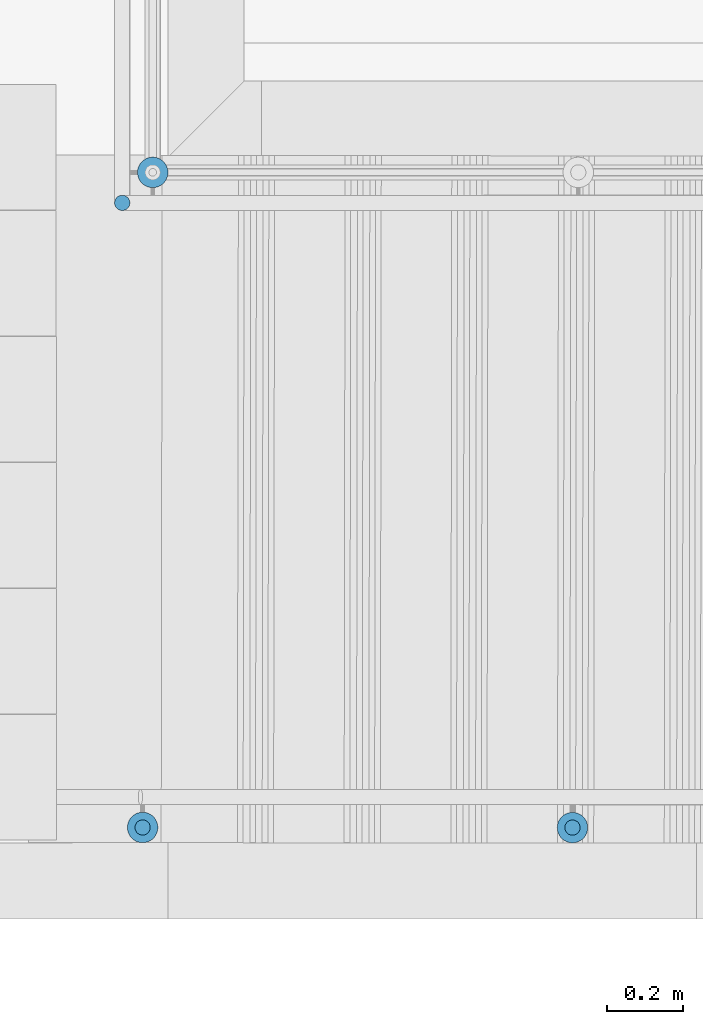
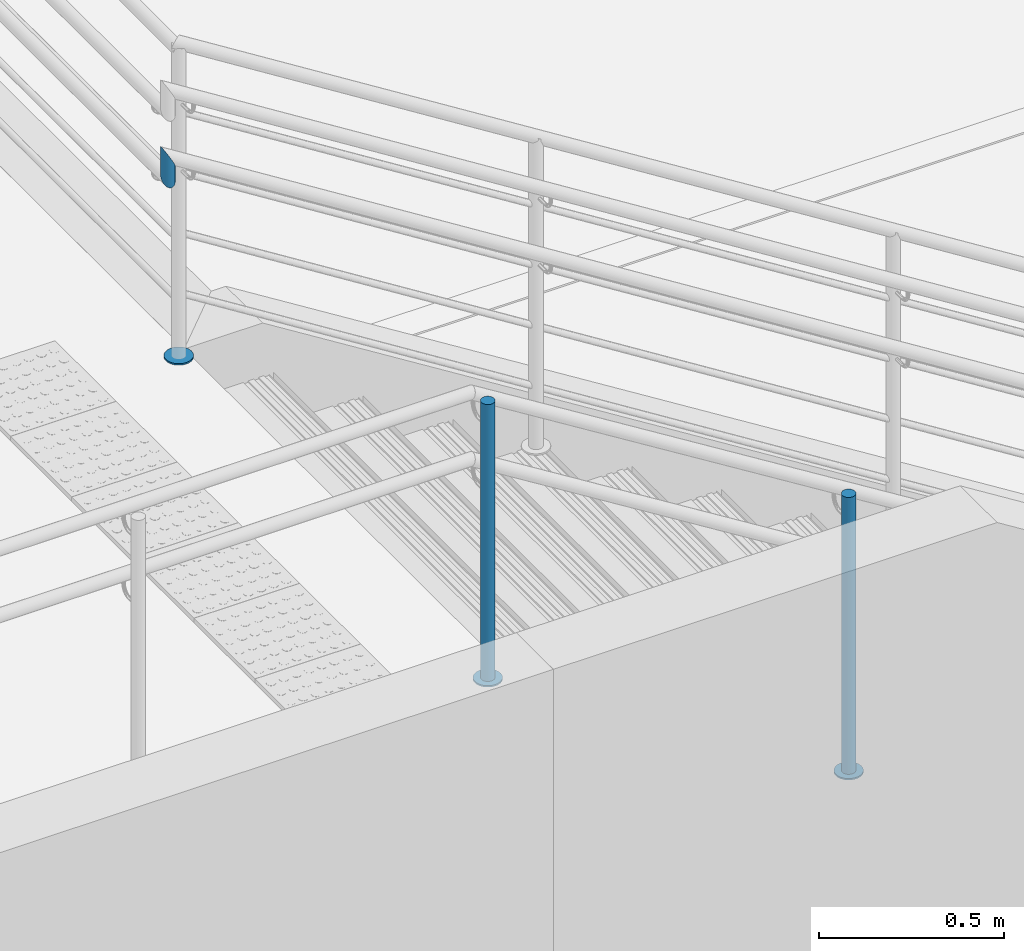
# One storey, part 131 of 237: 6 building element parts, 2 elements without a shape of their own.
"""IFC2X3 building model written with IfcOpenShell, lengths in millimetres."""

from ifc_helpers import new_model, entity, si_unit, converted_unit, derived_unit, money_unit, direction, frame, origin_with_axes, place, context, subcontext, project, spatial, faceted_brep, material, type_object, element, aggregate, save


model = new_model("IFC2X3")

# Units and contexts
model_context = context("Model", 3, precision=0.01, world=origin_with_axes(), true_north=direction((0.0, 1.0)))
body_context = subcontext(model_context, "Body", "Model", "MODEL_VIEW")
ifc_project = project(units=[si_unit("LENGTHUNIT", "METRE", prefix="MILLI"), si_unit("AREAUNIT", "SQUARE_METRE"), si_unit("VOLUMEUNIT", "CUBIC_METRE"), converted_unit("PLANEANGLEUNIT", "DEGREE", entity("IfcPlaneAngleMeasure", 0.0174532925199), si_unit("PLANEANGLEUNIT", "RADIAN"), dimensions=[0, 0, 0, 0, 0, 0, 0]), money_unit("USD"), converted_unit("TIMEUNIT", "Year", entity("IfcTimeMeasure", 31556926.0), si_unit("TIMEUNIT", "SECOND"), dimensions=[0, 0, 1, 0, 0, 0, 0]), si_unit("MASSUNIT", "GRAM", prefix="KILO"), si_unit("THERMODYNAMICTEMPERATUREUNIT", "DEGREE_CELSIUS"), si_unit("LUMINOUSINTENSITYUNIT", "LUMEN"), si_unit("ENERGYUNIT", "JOULE", prefix="MEGA"), derived_unit("THERMALCONDUCTANCEUNIT", [(si_unit("POWERUNIT", "WATT"), 1), (si_unit("LENGTHUNIT", "METRE"), -1), (si_unit("THERMODYNAMICTEMPERATUREUNIT", "KELVIN"), -1)]), derived_unit("SPECIFICHEATCAPACITYUNIT", [(si_unit("ENERGYUNIT", "JOULE"), 1), (si_unit("MASSUNIT", "GRAM", prefix="KILO"), -1), (si_unit("THERMODYNAMICTEMPERATUREUNIT", "KELVIN"), -1)]), derived_unit("MASSDENSITYUNIT", [(si_unit("MASSUNIT", "GRAM", prefix="KILO"), 1), (si_unit("VOLUMEUNIT", "CUBIC_METRE"), -1)])], contexts=[model_context])

# Site, building, storey
site_placement = place(None, origin_with_axes())
site = spatial("IfcSite", under=ifc_project, at=site_placement, Name="Local", CompositionType="ELEMENT")
building_placement = place(site_placement, origin_with_axes())
building = spatial("IfcBuilding", under=site, at=building_placement, Name="Construção", CompositionType="ELEMENT")
storey_placement = place(building_placement, origin_with_axes())
storey = spatial("IfcBuildingStorey", under=building, at=storey_placement, Name="Pavimento Térreo", CompositionType="ELEMENT", Elevation=0.0)

# Railing, building element parts
railing_type = type_object("IfcRailingType", Name="Tipo de Guarda-Corpo", PredefinedType="NOTDEFINED")
railing_1_placement = place(storey_placement, frame((88000.0, 12000.0, -7124.22292764), z_axis=(0.0, 0.0, 1.0), x_axis=(1.0, 0.0, 0.0)))
railing_1 = element("IfcRailing", 1, at=railing_1_placement, inside=storey, type_object=railing_type, Name="Guarda-Corpo - 003", PredefinedType="NOTDEFINED")
ifc_material_1 = material(Name="Aço - Inoxidável")
building_element_part_1_placement = place(railing_1_placement, origin_with_axes())
building_element_part_1 = element("IfcBuildingElementPart", 2, at=building_element_part_1_placement, material=ifc_material_1, Name="Aço - Inoxidável", context=body_context, shape_type="Brep", body=[
    faceted_brep([(12194.1213321, 1015.80094518, 2134.61869091), (12197.5943694, 1015.49794396, 2134.61869091), (12197.5943694, 1015.49794396, 3049.61869091), (12194.1213321, 1015.80094518, 3049.61869091), (12201.067259, 1015.80263261, 2134.61869091), (12190.7536737, 1016.70242971, 2134.61869091), (12187.5937187, 1018.17500642, 2134.61869091), (12184.7374808, 1020.1739318, 2134.61869091), (12182.2717454, 1022.63846952, 2134.61869091), (12180.2714324, 1025.49373585, 2134.61869091), (12178.7973205, 1028.65297495, 2134.61869091), (12177.8941998, 1032.02019496, 2134.61869091), (12177.5895112, 1035.4930846, 2134.61869091), (12177.8925124, 1038.96612186, 2134.61869091), (12178.793997, 1042.33378028, 2134.61869091), (12180.2665737, 1045.49373526, 2134.61869091), (12182.265499, 1048.34997315, 2134.61869091), (12184.7300368, 1050.81570862, 2134.61869091), (12187.5853031, 1052.81602155, 2134.61869091), (12190.7445422, 1054.29013343, 2134.61869091), (12194.1117622, 1055.19325413, 2134.61869091), (12197.5846518, 1055.49794278, 2134.61869091), (12201.0576891, 1055.19494157, 2134.61869091), (12204.4253475, 1054.29345703, 2134.61869091), (12207.5853025, 1052.82088032, 2134.61869091), (12210.4415404, 1050.82195494, 2134.61869091), (12212.9072759, 1048.35741722, 2134.61869091), (12214.9075888, 1045.5021509, 2134.61869091), (12216.3817007, 1042.34291179, 2134.61869091), (12217.2848214, 1038.97569178, 2134.61869091), (12217.58951, 1035.50280215, 2134.61869091), (12217.2865088, 1032.02976488, 2134.61869091), (12216.3850243, 1028.66210646, 2134.61869091), (12214.9124476, 1025.50215149, 2134.61869091), (12212.9135222, 1022.64591359, 2134.61869091), (12210.4489845, 1020.18017812, 2134.61869091), (12207.5937181, 1018.17986519, 2134.61869091), (12204.434479, 1016.70575331, 2134.61869091), (12201.067259, 1015.80263261, 3049.61869091), (12177.8925124, 1038.96612186, 3049.61869091), (12177.5895112, 1035.4930846, 3049.61869091), (12177.8941998, 1032.02019496, 3049.61869091), (12178.7973205, 1028.65297495, 3049.61869091), (12180.2714324, 1025.49373585, 3049.61869091), (12182.2717454, 1022.63846952, 3049.61869091), (12184.7374808, 1020.1739318, 3049.61869091), (12187.5937187, 1018.17500642, 3049.61869091), (12190.7536737, 1016.70242971, 3049.61869091), (12204.434479, 1016.70575331, 3049.61869091), (12207.5937181, 1018.17986519, 3049.61869091), (12210.4489845, 1020.18017812, 3049.61869091), (12212.9135222, 1022.64591359, 3049.61869091), (12214.9124476, 1025.50215149, 3049.61869091), (12216.3850243, 1028.66210646, 3049.61869091), (12217.2865088, 1032.02976488, 3049.61869091), (12217.58951, 1035.50280215, 3049.61869091), (12217.2848214, 1038.97569178, 3049.61869091), (12216.3817007, 1042.34291179, 3049.61869091), (12214.9075888, 1045.5021509, 3049.61869091), (12212.9072759, 1048.35741722, 3049.61869091), (12210.4415404, 1050.82195494, 3049.61869091), (12207.5853025, 1052.82088032, 3049.61869091), (12204.4253475, 1054.29345703, 3049.61869091), (12201.0576891, 1055.19494157, 3049.61869091), (12197.5846518, 1055.49794278, 3049.61869091), (12194.1117622, 1055.19325413, 3049.61869091), (12190.7445422, 1054.29013343, 3049.61869091), (12187.5853031, 1052.81602155, 3049.61869091), (12184.7300368, 1050.81570862, 3049.61869091), (12182.265499, 1048.34997315, 3049.61869091), (12180.2665737, 1045.49373526, 3049.61869091), (12178.793997, 1042.33378028, 3049.61869091)], [[[0, 1, 2, 3]], [[4, 1, 0, 5, 6, 7, 8, 9, 10, 11, 12, 13, 14, 15, 16, 17, 18, 19, 20, 21, 22, 23, 24, 25, 26, 27, 28, 29, 30, 31, 32, 33, 34, 35, 36, 37]], [[1, 4, 38, 2]], [[39, 40, 41, 42, 43, 44, 45, 46, 47, 3, 2, 38, 48, 49, 50, 51, 52, 53, 54, 55, 56, 57, 58, 59, 60, 61, 62, 63, 64, 65, 66, 67, 68, 69, 70, 71]], [[5, 0, 3, 47]], [[6, 5, 47, 46]], [[7, 6, 46, 45]], [[8, 7, 45, 44]], [[9, 8, 44, 43]], [[10, 9, 43, 42]], [[11, 10, 42, 41]], [[12, 11, 41, 40]], [[13, 12, 40, 39]], [[14, 13, 39, 71]], [[15, 14, 71, 70]], [[16, 15, 70, 69]], [[17, 16, 69, 68]], [[18, 17, 68, 67]], [[19, 18, 67, 66]], [[20, 19, 66, 65]], [[21, 20, 65, 64]], [[22, 21, 64, 63]], [[23, 22, 63, 62]], [[24, 23, 62, 61]], [[25, 24, 61, 60]], [[26, 25, 60, 59]], [[27, 26, 59, 58]], [[28, 27, 58, 57]], [[29, 28, 57, 56]], [[30, 29, 56, 55]], [[31, 30, 55, 54]], [[32, 31, 54, 53]], [[33, 32, 53, 52]], [[34, 33, 52, 51]], [[35, 34, 51, 50]], [[36, 35, 50, 49]], [[37, 36, 49, 48]], [[4, 37, 48, 38]]]),
])
ifc_material_2 = material(Name="Alumínio")
building_element_part_2_placement = place(railing_1_placement, origin_with_axes())
building_element_part_2 = element("IfcBuildingElementPart", 3, at=building_element_part_2_placement, material=ifc_material_2, Name="Alumínio", context=body_context, shape_type="Brep", body=[
    faceted_brep([(12237.5895094, 1035.50766092, 2129.61869091), (12236.9801321, 1042.45344019, 2129.61869091), (12236.9801321, 1042.45344019, 2134.61869091), (12237.5895094, 1035.50766092, 2134.61869091), (12236.983507, 1028.56158639, 2129.61869091), (12235.1805379, 1021.82626955, 2129.61869091), (12232.2353845, 1015.50635961, 2129.61869091), (12228.2375337, 1009.79388382, 2129.61869091), (12223.3084583, 1004.86241287, 2129.61869091), (12217.5979257, 1000.86178702, 2129.61869091), (12211.2794474, 997.913563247, 2129.61869091), (12204.5450074, 996.107321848, 2129.61869091), (12197.5992282, 995.497944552, 2129.61869091), (12190.6531536, 996.103946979, 2129.61869091), (12183.9178368, 997.906916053, 2129.61869091), (12177.5979268, 1000.85206947, 2129.61869091), (12171.8854511, 1004.84992023, 2129.61869091), (12166.9539801, 1009.77899567, 2129.61869091), (12162.9533543, 1015.48952832, 2129.61869091), (12160.0051305, 1021.80800653, 2129.61869091), (12158.1988891, 1028.54244655, 2129.61869091), (12157.5895118, 1035.48822582, 2129.61869091), (12158.1955142, 1042.43430036, 2129.61869091), (12159.9984833, 1049.16961719, 2129.61869091), (12162.9436367, 1055.48952714, 2129.61869091), (12166.9414875, 1061.20200293, 2129.61869091), (12171.8705629, 1066.13347387, 2129.61869091), (12177.5810956, 1070.13409973, 2129.61869091), (12183.8995738, 1073.0823235, 2129.61869091), (12190.6340138, 1074.8885649, 2129.61869091), (12197.5797931, 1075.49794219, 2129.61869091), (12204.5258676, 1074.89193976, 2129.61869091), (12211.2611844, 1073.08897069, 2129.61869091), (12217.5810944, 1070.14381727, 2129.61869091), (12223.2935702, 1066.14596651, 2129.61869091), (12228.2250411, 1061.21689107, 2129.61869091), (12232.225667, 1055.50635843, 2129.61869091), (12235.1738907, 1049.18788021, 2129.61869091), (12235.1738907, 1049.18788021, 2134.61869091), (12232.225667, 1055.50635843, 2134.61869091), (12228.2250411, 1061.21689107, 2134.61869091), (12223.2935702, 1066.14596651, 2134.61869091), (12217.5810944, 1070.14381727, 2134.61869091), (12211.2611844, 1073.08897069, 2134.61869091), (12204.5258676, 1074.89193976, 2134.61869091), (12197.5797931, 1075.49794219, 2134.61869091), (12190.6340138, 1074.8885649, 2134.61869091), (12183.8995738, 1073.0823235, 2134.61869091), (12177.5810956, 1070.13409973, 2134.61869091), (12171.8705629, 1066.13347387, 2134.61869091), (12166.9414875, 1061.20200293, 2134.61869091), (12162.9436367, 1055.48952714, 2134.61869091), (12159.9984833, 1049.16961719, 2134.61869091), (12158.1955142, 1042.43430036, 2134.61869091), (12157.5895118, 1035.48822582, 2134.61869091), (12158.1988891, 1028.54244655, 2134.61869091), (12160.0051305, 1021.80800653, 2134.61869091), (12162.9533543, 1015.48952832, 2134.61869091), (12166.9539801, 1009.77899567, 2134.61869091), (12171.8854511, 1004.84992023, 2134.61869091), (12177.5979268, 1000.85206947, 2134.61869091), (12183.9178368, 997.906916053, 2134.61869091), (12190.6531536, 996.103946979, 2134.61869091), (12197.5992282, 995.497944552, 2134.61869091), (12204.5450074, 996.107321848, 2134.61869091), (12211.2794474, 997.913563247, 2134.61869091), (12217.5979257, 1000.86178702, 2134.61869091), (12223.3084583, 1004.86241287, 2134.61869091), (12228.2375337, 1009.79388382, 2134.61869091), (12232.2353845, 1015.50635961, 2134.61869091), (12235.1805379, 1021.82626955, 2134.61869091), (12236.983507, 1028.56158639, 2134.61869091)], [[[0, 1, 2, 3]], [[0, 4, 5, 6, 7, 8, 9, 10, 11, 12, 13, 14, 15, 16, 17, 18, 19, 20, 21, 22, 23, 24, 25, 26, 27, 28, 29, 30, 31, 32, 33, 34, 35, 36, 37, 1]], [[1, 37, 38, 2]], [[3, 2, 38, 39, 40, 41, 42, 43, 44, 45, 46, 47, 48, 49, 50, 51, 52, 53, 54, 55, 56, 57, 58, 59, 60, 61, 62, 63, 64, 65, 66, 67, 68, 69, 70, 71]], [[4, 0, 3, 71]], [[5, 4, 71, 70]], [[6, 5, 70, 69]], [[7, 6, 69, 68]], [[8, 7, 68, 67]], [[9, 8, 67, 66]], [[10, 9, 66, 65]], [[11, 10, 65, 64]], [[12, 11, 64, 63]], [[13, 12, 63, 62]], [[14, 13, 62, 61]], [[15, 14, 61, 60]], [[16, 15, 60, 59]], [[17, 16, 59, 58]], [[18, 17, 58, 57]], [[19, 18, 57, 56]], [[20, 19, 56, 55]], [[21, 20, 55, 54]], [[22, 21, 54, 53]], [[23, 22, 53, 52]], [[24, 23, 52, 51]], [[25, 24, 51, 50]], [[26, 25, 50, 49]], [[27, 26, 49, 48]], [[28, 27, 48, 47]], [[29, 28, 47, 46]], [[30, 29, 46, 45]], [[31, 30, 45, 44]], [[32, 31, 44, 43]], [[33, 32, 43, 42]], [[34, 33, 42, 41]], [[35, 34, 41, 40]], [[36, 35, 40, 39]], [[37, 36, 39, 38]]]),
])
building_element_part_3_placement = place(railing_1_placement, origin_with_axes())
building_element_part_3 = element("IfcBuildingElementPart", 4, at=building_element_part_3_placement, material=ifc_material_1, Name="Aço - Inoxidável", context=body_context, shape_type="Brep", body=[
    faceted_brep([(13322.0238617, 1015.4772801, 1433.02847987), (13325.4967374, 1015.17243289, 1433.02847987), (13325.4967374, 1015.17243289, 2348.02847987), (13322.0238617, 1015.4772801, 2348.02847987), (13328.9697885, 1015.47527553, 1433.02847987), (13318.6566829, 1016.38055454, 1433.02847987), (13315.4975111, 1017.85481066, 1433.02847987), (13312.6423361, 1019.85525395, 1433.02847987), (13310.177911, 1022.32110195, 1433.02847987), (13308.179116, 1025.1774311, 1433.02847987), (13306.7066836, 1028.33745331, 1433.02847987), (13305.8053528, 1031.70515288, 1433.02847987), (13305.5025102, 1035.17820398, 1433.02847987), (13305.8073574, 1038.6510797, 1433.02847987), (13306.7106318, 1042.01825847, 1433.02847987), (13308.184888, 1045.17743027, 1433.02847987), (13310.1853312, 1048.03260526, 1433.02847987), (13312.6511792, 1050.4970304, 1433.02847987), (13315.5075084, 1052.49582537, 1433.02847987), (13318.6675306, 1053.9682578, 1433.02847987), (13322.0352302, 1054.86958858, 1433.02847987), (13325.5082813, 1055.17243122, 1433.02847987), (13328.981157, 1054.86758401, 1433.02847987), (13332.3483358, 1053.96430958, 1433.02847987), (13335.5075076, 1052.49005345, 1433.02847987), (13338.3626826, 1050.48961016, 1433.02847987), (13340.8271077, 1048.02376217, 1433.02847987), (13342.8259027, 1045.16743301, 1433.02847987), (13344.2983351, 1042.00741081, 1433.02847987), (13345.1996659, 1038.63971123, 1433.02847987), (13345.5025085, 1035.16666013, 1433.02847987), (13345.1976613, 1031.69378441, 1433.02847987), (13344.2943869, 1028.32660564, 1433.02847987), (13342.8201307, 1025.16743384, 1433.02847987), (13340.8196875, 1022.31225885, 1433.02847987), (13338.3538395, 1019.84783371, 1433.02847987), (13335.4975103, 1017.84903874, 1433.02847987), (13332.3374881, 1016.37660631, 1433.02847987), (13328.9697885, 1015.47527553, 2348.02847987), (13305.8073574, 1038.6510797, 2348.02847987), (13305.5025102, 1035.17820398, 2348.02847987), (13305.8053528, 1031.70515288, 2348.02847987), (13306.7066836, 1028.33745331, 2348.02847987), (13308.179116, 1025.1774311, 2348.02847987), (13310.177911, 1022.32110195, 2348.02847987), (13312.6423361, 1019.85525395, 2348.02847987), (13315.4975111, 1017.85481066, 2348.02847987), (13318.6566829, 1016.38055454, 2348.02847987), (13332.3374881, 1016.37660631, 2348.02847987), (13335.4975103, 1017.84903874, 2348.02847987), (13338.3538395, 1019.84783371, 2348.02847987), (13340.8196875, 1022.31225885, 2348.02847987), (13342.8201307, 1025.16743384, 2348.02847987), (13344.2943869, 1028.32660564, 2348.02847987), (13345.1976613, 1031.69378441, 2348.02847987), (13345.5025085, 1035.16666013, 2348.02847987), (13345.1996659, 1038.63971123, 2348.02847987), (13344.2983351, 1042.00741081, 2348.02847987), (13342.8259027, 1045.16743301, 2348.02847987), (13340.8271077, 1048.02376217, 2348.02847987), (13338.3626826, 1050.48961016, 2348.02847987), (13335.5075076, 1052.49005345, 2348.02847987), (13332.3483358, 1053.96430958, 2348.02847987), (13328.981157, 1054.86758401, 2348.02847987), (13325.5082813, 1055.17243122, 2348.02847987), (13322.0352302, 1054.86958858, 2348.02847987), (13318.6675306, 1053.9682578, 2348.02847987), (13315.5075084, 1052.49582537, 2348.02847987), (13312.6511792, 1050.4970304, 2348.02847987), (13310.1853312, 1048.03260526, 2348.02847987), (13308.184888, 1045.17743027, 2348.02847987), (13306.7106318, 1042.01825847, 2348.02847987)], [[[0, 1, 2, 3]], [[4, 1, 0, 5, 6, 7, 8, 9, 10, 11, 12, 13, 14, 15, 16, 17, 18, 19, 20, 21, 22, 23, 24, 25, 26, 27, 28, 29, 30, 31, 32, 33, 34, 35, 36, 37]], [[1, 4, 38, 2]], [[39, 40, 41, 42, 43, 44, 45, 46, 47, 3, 2, 38, 48, 49, 50, 51, 52, 53, 54, 55, 56, 57, 58, 59, 60, 61, 62, 63, 64, 65, 66, 67, 68, 69, 70, 71]], [[5, 0, 3, 47]], [[6, 5, 47, 46]], [[7, 6, 46, 45]], [[8, 7, 45, 44]], [[9, 8, 44, 43]], [[10, 9, 43, 42]], [[11, 10, 42, 41]], [[12, 11, 41, 40]], [[13, 12, 40, 39]], [[14, 13, 39, 71]], [[15, 14, 71, 70]], [[16, 15, 70, 69]], [[17, 16, 69, 68]], [[18, 17, 68, 67]], [[19, 18, 67, 66]], [[20, 19, 66, 65]], [[21, 20, 65, 64]], [[22, 21, 64, 63]], [[23, 22, 63, 62]], [[24, 23, 62, 61]], [[25, 24, 61, 60]], [[26, 25, 60, 59]], [[27, 26, 59, 58]], [[28, 27, 58, 57]], [[29, 28, 57, 56]], [[30, 29, 56, 55]], [[31, 30, 55, 54]], [[32, 31, 54, 53]], [[33, 32, 53, 52]], [[34, 33, 52, 51]], [[35, 34, 51, 50]], [[36, 35, 50, 49]], [[37, 36, 49, 48]], [[4, 37, 48, 38]]]),
])
building_element_part_4_placement = place(railing_1_placement, origin_with_axes())
building_element_part_4 = element("IfcBuildingElementPart", 5, at=building_element_part_4_placement, material=ifc_material_2, Name="Alumínio", context=body_context, shape_type="Brep", body=[
    faceted_brep([(13365.5025077, 1035.16088821, 1428.02847987), (13364.8968224, 1042.10699041, 1428.02847987), (13364.8968224, 1042.10699041, 1433.02847987), (13365.5025077, 1035.16088821, 1433.02847987), (13364.8928133, 1028.21513677, 1428.02847987), (13363.0862644, 1021.48077923, 1428.02847987), (13360.1377521, 1015.16243563, 1428.02847987), (13356.1368656, 1009.45208564, 1428.02847987), (13351.2051696, 1004.52323537, 1428.02847987), (13345.4925113, 1000.52564543, 1428.02847987), (13339.1724668, 997.580780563, 1428.02847987), (13332.4370677, 995.778119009, 1428.02847987), (13325.4909655, 995.172433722, 1428.02847987), (13318.5452141, 995.782128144, 1428.02847987), (13311.8108565, 997.588677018, 1428.02847987), (13305.4925129, 1000.53718927, 1428.02847987), (13299.7821629, 1004.53807585, 1428.02847987), (13294.8533127, 1009.46977184, 1428.02847987), (13290.8557227, 1015.18243015, 1428.02847987), (13287.9108579, 1021.50247456, 1428.02847987), (13286.1081963, 1028.23787371, 1428.02847987), (13285.502511, 1035.1839759, 1428.02847987), (13286.1122054, 1042.12972734, 1428.02847987), (13287.9187543, 1048.86408489, 1428.02847987), (13290.8672666, 1055.18242849, 1428.02847987), (13294.8681531, 1060.89277847, 1428.02847987), (13299.7998491, 1065.82162875, 1428.02847987), (13305.5125074, 1069.81921869, 1428.02847987), (13311.8325518, 1072.76408355, 1428.02847987), (13318.567951, 1074.5667451, 1428.02847987), (13325.5140532, 1075.17243039, 1428.02847987), (13332.4598046, 1074.56273597, 1428.02847987), (13339.1941622, 1072.7561871, 1428.02847987), (13345.5125058, 1069.80767484, 1428.02847987), (13351.2228558, 1065.80678827, 1428.02847987), (13356.151706, 1060.87509228, 1428.02847987), (13360.149296, 1055.16243396, 1428.02847987), (13363.0941608, 1048.84238955, 1428.02847987), (13363.0941608, 1048.84238955, 1433.02847987), (13360.149296, 1055.16243396, 1433.02847987), (13356.151706, 1060.87509228, 1433.02847987), (13351.2228558, 1065.80678827, 1433.02847987), (13345.5125058, 1069.80767484, 1433.02847987), (13339.1941622, 1072.7561871, 1433.02847987), (13332.4598046, 1074.56273597, 1433.02847987), (13325.5140532, 1075.17243039, 1433.02847987), (13318.567951, 1074.5667451, 1433.02847987), (13311.8325518, 1072.76408355, 1433.02847987), (13305.5125074, 1069.81921869, 1433.02847987), (13299.7998491, 1065.82162875, 1433.02847987), (13294.8681531, 1060.89277847, 1433.02847987), (13290.8672666, 1055.18242849, 1433.02847987), (13287.9187543, 1048.86408489, 1433.02847987), (13286.1122054, 1042.12972734, 1433.02847987), (13285.502511, 1035.1839759, 1433.02847987), (13286.1081963, 1028.23787371, 1433.02847987), (13287.9108579, 1021.50247456, 1433.02847987), (13290.8557227, 1015.18243015, 1433.02847987), (13294.8533127, 1009.46977184, 1433.02847987), (13299.7821629, 1004.53807585, 1433.02847987), (13305.4925129, 1000.53718927, 1433.02847987), (13311.8108565, 997.588677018, 1433.02847987), (13318.5452141, 995.782128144, 1433.02847987), (13325.4909655, 995.172433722, 1433.02847987), (13332.4370677, 995.778119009, 1433.02847987), (13339.1724668, 997.580780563, 1433.02847987), (13345.4925113, 1000.52564543, 1433.02847987), (13351.2051696, 1004.52323537, 1433.02847987), (13356.1368656, 1009.45208564, 1433.02847987), (13360.1377521, 1015.16243563, 1433.02847987), (13363.0862644, 1021.48077923, 1433.02847987), (13364.8928133, 1028.21513677, 1433.02847987)], [[[0, 1, 2, 3]], [[0, 4, 5, 6, 7, 8, 9, 10, 11, 12, 13, 14, 15, 16, 17, 18, 19, 20, 21, 22, 23, 24, 25, 26, 27, 28, 29, 30, 31, 32, 33, 34, 35, 36, 37, 1]], [[1, 37, 38, 2]], [[3, 2, 38, 39, 40, 41, 42, 43, 44, 45, 46, 47, 48, 49, 50, 51, 52, 53, 54, 55, 56, 57, 58, 59, 60, 61, 62, 63, 64, 65, 66, 67, 68, 69, 70, 71]], [[4, 0, 3, 71]], [[5, 4, 71, 70]], [[6, 5, 70, 69]], [[7, 6, 69, 68]], [[8, 7, 68, 67]], [[9, 8, 67, 66]], [[10, 9, 66, 65]], [[11, 10, 65, 64]], [[12, 11, 64, 63]], [[13, 12, 63, 62]], [[14, 13, 62, 61]], [[15, 14, 61, 60]], [[16, 15, 60, 59]], [[17, 16, 59, 58]], [[18, 17, 58, 57]], [[19, 18, 57, 56]], [[20, 19, 56, 55]], [[21, 20, 55, 54]], [[22, 21, 54, 53]], [[23, 22, 53, 52]], [[24, 23, 52, 51]], [[25, 24, 51, 50]], [[26, 25, 50, 49]], [[27, 26, 49, 48]], [[28, 27, 48, 47]], [[29, 28, 47, 46]], [[30, 29, 46, 45]], [[31, 30, 45, 44]], [[32, 31, 44, 43]], [[33, 32, 43, 42]], [[34, 33, 42, 41]], [[35, 34, 41, 40]], [[36, 35, 40, 39]], [[37, 36, 39, 38]]]),
])
aggregate(railing_1, [building_element_part_1, building_element_part_2, building_element_part_3, building_element_part_4])

railing_2_placement = place(storey_placement, frame((104000.0, 14000.0, -7099.22292764), z_axis=(0.0, 0.0, 1.0), x_axis=(1.0, 0.0, 0.0)))
railing_2 = element("IfcRailing", 6, at=railing_2_placement, inside=storey, type_object=railing_type, Name="Guarda-Corpo - 001", PredefinedType="NOTDEFINED")
building_element_part_5_placement = place(railing_2_placement, origin_with_axes())
building_element_part_5 = element("IfcBuildingElementPart", 7, at=building_element_part_5_placement, material=ifc_material_2, Name="Alumínio", context=body_context, shape_type="Brep", body=[
    faceted_brep([(-3815.89706943, 754.49725126, 2117.17976629), (-3815.28932946, 747.551328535, 2117.17976629), (-3815.28932946, 747.551328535, 2122.17976629), (-3815.89706943, 754.49725126, 2122.17976629), (-3815.28942963, 761.443182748, 2117.17976629), (-3813.48487291, 768.178074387, 2117.17976629), (-3810.53822979, 774.497289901, 2117.17976629), (-3806.53903255, 780.208823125, 2117.17976629), (-3801.60879476, 785.139132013, 2117.17976629), (-3795.89731921, 789.138411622, 2117.17976629), (-3789.57814619, 792.085145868, 2117.17976629), (-3782.84328058, 793.889799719, 2117.17976629), (-3775.89735785, 794.497539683, 2117.17976629), (-3768.95142636, 793.889899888, 2117.17976629), (-3762.21653473, 792.085343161, 2117.17976629), (-3755.89731921, 789.138700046, 2117.17976629), (-3750.18578599, 785.139502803, 2117.17976629), (-3745.2554771, 780.209265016, 2117.17976629), (-3741.25619749, 774.497789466, 2117.17976629), (-3738.30946324, 768.178616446, 2117.17976629), (-3736.50480939, 761.443750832, 2117.17976629), (-3735.89706943, 754.497828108, 2117.17976629), (-3736.50470922, 747.551896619, 2117.17976629), (-3738.30926595, 740.817004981, 2117.17976629), (-3741.25590907, 734.497789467, 2117.17976629), (-3745.25510631, 728.786256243, 2117.17976629), (-3750.1853441, 723.855947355, 2117.17976629), (-3755.89681965, 719.856667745, 2117.17976629), (-3762.21599267, 716.9099335, 2117.17976629), (-3768.95085828, 715.105279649, 2117.17976629), (-3775.896781, 714.497539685, 2117.17976629), (-3782.84271249, 715.10517948, 2117.17976629), (-3789.57760413, 716.909736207, 2117.17976629), (-3795.89681965, 719.856379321, 2117.17976629), (-3801.60835287, 723.855576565, 2117.17976629), (-3806.53866176, 728.785814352, 2117.17976629), (-3810.53794137, 734.497289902, 2117.17976629), (-3813.48467561, 740.816462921, 2117.17976629), (-3813.48467561, 740.816462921, 2122.17976629), (-3810.53794137, 734.497289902, 2122.17976629), (-3806.53866176, 728.785814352, 2122.17976629), (-3801.60835287, 723.855576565, 2122.17976629), (-3795.89681965, 719.856379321, 2122.17976629), (-3789.57760413, 716.909736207, 2122.17976629), (-3782.84271249, 715.10517948, 2122.17976629), (-3775.896781, 714.497539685, 2122.17976629), (-3768.95085828, 715.105279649, 2122.17976629), (-3762.21599267, 716.9099335, 2122.17976629), (-3755.89681965, 719.856667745, 2122.17976629), (-3750.1853441, 723.855947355, 2122.17976629), (-3745.25510631, 728.786256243, 2122.17976629), (-3741.25590907, 734.497789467, 2122.17976629), (-3738.30926595, 740.817004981, 2122.17976629), (-3736.50470922, 747.551896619, 2122.17976629), (-3735.89706943, 754.497828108, 2122.17976629), (-3736.50480939, 761.443750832, 2122.17976629), (-3738.30946324, 768.178616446, 2122.17976629), (-3741.25619749, 774.497789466, 2122.17976629), (-3745.2554771, 780.209265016, 2122.17976629), (-3750.18578599, 785.139502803, 2122.17976629), (-3755.89731921, 789.138700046, 2122.17976629), (-3762.21653473, 792.085343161, 2122.17976629), (-3768.95142636, 793.889899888, 2122.17976629), (-3775.89735785, 794.497539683, 2122.17976629), (-3782.84328058, 793.889799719, 2122.17976629), (-3789.57814619, 792.085145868, 2122.17976629), (-3795.89731921, 789.138411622, 2122.17976629), (-3801.60879476, 785.139132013, 2122.17976629), (-3806.53903255, 780.208823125, 2122.17976629), (-3810.53822979, 774.497289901, 2122.17976629), (-3813.48487291, 768.178074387, 2122.17976629), (-3815.28942963, 761.443182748, 2122.17976629)], [[[0, 1, 2, 3]], [[0, 4, 5, 6, 7, 8, 9, 10, 11, 12, 13, 14, 15, 16, 17, 18, 19, 20, 21, 22, 23, 24, 25, 26, 27, 28, 29, 30, 31, 32, 33, 34, 35, 36, 37, 1]], [[1, 37, 38, 2]], [[3, 2, 38, 39, 40, 41, 42, 43, 44, 45, 46, 47, 48, 49, 50, 51, 52, 53, 54, 55, 56, 57, 58, 59, 60, 61, 62, 63, 64, 65, 66, 67, 68, 69, 70, 71]], [[4, 0, 3, 71]], [[5, 4, 71, 70]], [[6, 5, 70, 69]], [[7, 6, 69, 68]], [[8, 7, 68, 67]], [[9, 8, 67, 66]], [[10, 9, 66, 65]], [[11, 10, 65, 64]], [[12, 11, 64, 63]], [[13, 12, 63, 62]], [[14, 13, 62, 61]], [[15, 14, 61, 60]], [[16, 15, 60, 59]], [[17, 16, 59, 58]], [[18, 17, 58, 57]], [[19, 18, 57, 56]], [[20, 19, 56, 55]], [[21, 20, 55, 54]], [[22, 21, 54, 53]], [[23, 22, 53, 52]], [[24, 23, 52, 51]], [[25, 24, 51, 50]], [[26, 25, 50, 49]], [[27, 26, 49, 48]], [[28, 27, 48, 47]], [[29, 28, 47, 46]], [[30, 29, 46, 45]], [[31, 30, 45, 44]], [[32, 31, 44, 43]], [[33, 32, 43, 42]], [[34, 33, 42, 41]], [[35, 34, 41, 40]], [[36, 35, 40, 39]], [[37, 36, 39, 38]]]),
])
building_element_part_6_placement = place(railing_2_placement, origin_with_axes())
building_element_part_6 = element("IfcBuildingElementPart", 8, at=building_element_part_6_placement, material=ifc_material_1, Name="Aço - Inoxidável", context=body_context, shape_type="Brep", body=[
    faceted_brep([(-3852.42318918, 694.193142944, 2804.31151876), (-3855.89615492, 694.496962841, 2804.61538462), (-3855.89615492, 694.496962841, 2856.38249624), (-3852.42318918, 694.193142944, 2850.09927383), (-3859.36911629, 694.193092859, 2804.31156059), (-3849.05574336, 693.29086458, 2803.40919583), (-3845.8961356, 691.817543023, 2801.93583246), (-3843.04036899, 689.817944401, 2799.93619604), (-3840.57521455, 687.352825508, 2797.47104453), (-3838.57557474, 684.497087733, 2794.61528029), (-3837.10220762, 681.337501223, 2791.45567428), (-3836.1998807, 677.970068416, 2788.08822953), (-3835.89601071, 674.497107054, 2784.61526415), (-3836.19983061, 671.024141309, 2781.14230243), (-3837.10210897, 667.65669549, 2777.77486855), (-3838.57543053, 664.497087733, 2774.61528029), (-3840.57502915, 661.641321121, 2771.75954014), (-3843.04014805, 659.176166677, 2769.29441832), (-3845.89588582, 657.176526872, 2767.29481631), (-3849.05547233, 655.70315975, 2765.821491), (-3852.42290514, 654.800832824, 2764.91920864), (-3855.8958665, 654.496962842, 2764.61538462), (-3859.36883224, 654.80078274, 2764.91925047), (-3862.73627806, 655.703061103, 2765.8215734), (-3865.89588582, 657.17638266, 2767.29493677), (-3868.75165243, 659.175981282, 2769.29457319), (-3871.21680688, 661.641100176, 2771.7597247), (-3873.21644668, 664.496837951, 2774.61548894), (-3874.6898138, 667.65642446, 2777.77509495), (-3875.59214073, 671.023857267, 2781.1425397), (-3875.89601071, 674.49681863, 2784.61550508), (-3875.59219081, 677.969784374, 2788.08846681), (-3874.68991245, 681.337230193, 2791.45590068), (-3873.21659089, 684.49683795, 2794.61548894), (-3871.21699227, 687.352604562, 2797.47122909), (-3868.75187338, 689.817759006, 2799.93635091), (-3865.8961356, 691.817398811, 2801.93595292), (-3862.73654909, 693.290765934, 2803.40927823), (-3859.36911629, 694.193092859, 2862.66571865), (-3865.89588582, 657.17638266, 2874.47431412), (-3862.73627806, 655.703061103, 2868.75802853), (-3859.36883224, 654.80078274, 2862.66571865), (-3855.8958665, 654.496962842, 2856.38249624), (-3852.42290514, 654.800832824, 2850.09927383), (-3849.05547233, 655.70315975, 2844.00696396), (-3845.89588582, 657.176526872, 2838.29067836), (-3843.04014805, 659.176166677, 2833.12410351), (-3840.57502915, 661.641321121, 2828.66422314), (-3838.57543053, 664.497087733, 2825.04654848), (-3837.10210897, 667.65669549, 2822.38100073), (-3836.19983061, 671.02414131, 2820.74857122), (-3835.89601071, 674.497107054, 2820.19886049), (-3836.1998807, 677.970068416, 2820.74857122), (-3837.10220762, 681.337501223, 2822.38100073), (-3838.57557474, 684.497087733, 2825.04654848), (-3840.57521455, 687.352825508, 2828.66422314), (-3843.04036899, 689.817944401, 2833.12410351), (-3845.8961356, 691.817543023, 2838.29067836), (-3849.05574336, 693.29086458, 2844.00696396), (-3862.73654909, 693.290765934, 2868.75802853), (-3865.8961356, 691.817398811, 2874.47431412), (-3868.75187338, 689.817759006, 2879.64088898), (-3871.21699227, 687.352604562, 2884.10076935), (-3873.21659089, 684.49683795, 2887.71844401), (-3874.68991245, 681.337230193, 2890.38399176), (-3875.59219081, 677.969784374, 2892.01642127), (-3875.89601071, 674.49681863, 2892.566132), (-3875.59214073, 671.023857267, 2892.01642127), (-3874.6898138, 667.65642446, 2890.38399176), (-3873.21644668, 664.496837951, 2887.71844401), (-3871.21680688, 661.641100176, 2884.10076935), (-3868.75165243, 659.175981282, 2879.64088898)], [[[0, 1, 2, 3]], [[4, 1, 0, 5, 6, 7, 8, 9, 10, 11, 12, 13, 14, 15, 16, 17, 18, 19, 20, 21, 22, 23, 24, 25, 26, 27, 28, 29, 30, 31, 32, 33, 34, 35, 36, 37]], [[1, 4, 38, 2]], [[39, 40, 41, 42, 43, 44, 45, 46, 47, 48, 49, 50, 51, 52, 53, 54, 55, 56, 57, 58, 3, 2, 38, 59, 60, 61, 62, 63, 64, 65, 66, 67, 68, 69, 70, 71]], [[5, 0, 3, 58]], [[6, 5, 58, 57]], [[7, 6, 57, 56]], [[8, 7, 56, 55]], [[9, 8, 55, 54]], [[10, 9, 54, 53]], [[11, 10, 53, 52]], [[12, 11, 52, 51]], [[13, 12, 51, 50]], [[14, 13, 50, 49]], [[15, 14, 49, 48]], [[16, 15, 48, 47]], [[17, 16, 47, 46]], [[18, 17, 46, 45]], [[19, 18, 45, 44]], [[20, 19, 44, 43]], [[21, 20, 43, 42]], [[22, 21, 42, 41]], [[23, 22, 41, 40]], [[24, 23, 40, 39]], [[25, 24, 39, 71]], [[26, 25, 71, 70]], [[27, 26, 70, 69]], [[28, 27, 69, 68]], [[29, 28, 68, 67]], [[30, 29, 67, 66]], [[31, 30, 66, 65]], [[32, 31, 65, 64]], [[33, 32, 64, 63]], [[34, 33, 63, 62]], [[35, 34, 62, 61]], [[36, 35, 61, 60]], [[37, 36, 60, 59]], [[4, 37, 59, 38]]]),
])
aggregate(railing_2, [building_element_part_5, building_element_part_6])

save(model, "model.ifc")
